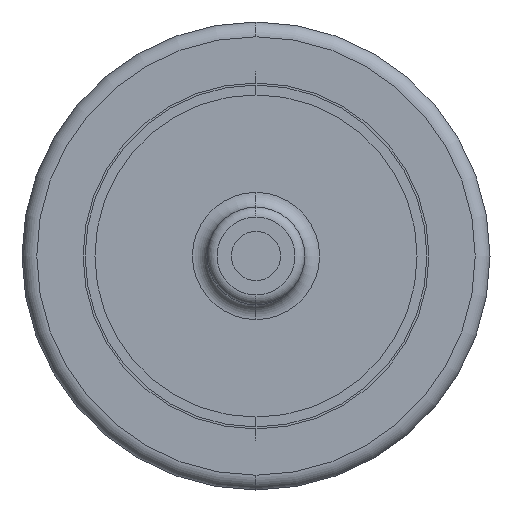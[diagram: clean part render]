
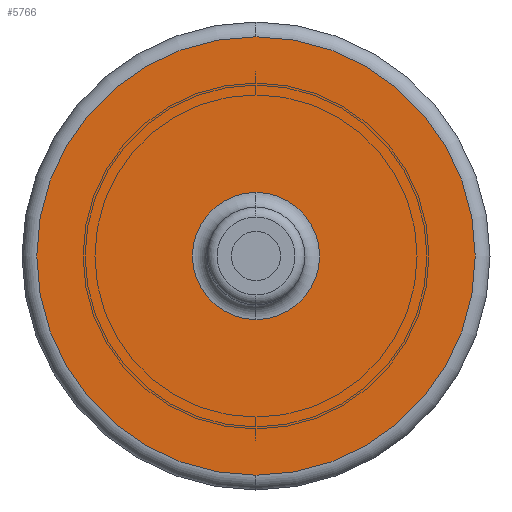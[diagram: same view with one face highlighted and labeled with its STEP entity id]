
A CAD part, left-side view. The second image highlights one B-rep face of the part: STEP entity #5766.
In plain terms, the highlighted planar face has unit normal (-1, 0, 0).
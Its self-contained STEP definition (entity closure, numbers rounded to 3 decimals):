
#226 = ORIENTED_EDGE ( 'NONE', *, *, #22060, .T. ) ;
#823 = FACE_BOUND ( 'NONE', #1788, .T. ) ;
#1200 = DIRECTION ( 'NONE',  ( 1., 0., 0. ) ) ;
#1298 = AXIS2_PLACEMENT_3D ( 'NONE', #8138, #16903, #9701 ) ;
#1788 = EDGE_LOOP ( 'NONE', ( #16781, #16660 ) ) ;
#1960 = EDGE_CURVE ( 'NONE', #2299, #14991, #3265, .T. ) ;
#2299 = VERTEX_POINT ( 'NONE', #7860 ) ;
#3265 = CIRCLE ( 'NONE', #20916, 1.29 ) ;
#4517 = DIRECTION ( 'NONE',  ( 0., 0., -1. ) ) ;
#5550 = EDGE_CURVE ( 'NONE', #14991, #2299, #8625, .T. ) ;
#5766 = ADVANCED_FACE ( 'NONE', ( #823, #13531 ), #14972, .F. ) ;
#5802 = VERTEX_POINT ( 'NONE', #19198 ) ;
#6790 = DIRECTION ( 'NONE',  ( 1., 0., 0. ) ) ;
#6838 = CARTESIAN_POINT ( 'NONE',  ( -19.5, 0., 0. ) ) ;
#6956 = DIRECTION ( 'NONE',  ( 0., 0., -1. ) ) ;
#7362 = AXIS2_PLACEMENT_3D ( 'NONE', #12593, #9226, #16549 ) ;
#7727 = CIRCLE ( 'NONE', #7362, 4.45 ) ;
#7814 = DIRECTION ( 'NONE',  ( 0., 0., -1. ) ) ;
#7860 = CARTESIAN_POINT ( 'NONE',  ( -19.5, 0., -1.29 ) ) ;
#8138 = CARTESIAN_POINT ( 'NONE',  ( -19.5, 4.75, 0. ) ) ;
#8388 = VERTEX_POINT ( 'NONE', #18878 ) ;
#8404 = EDGE_CURVE ( 'NONE', #5802, #8388, #22956, .T. ) ;
#8625 = CIRCLE ( 'NONE', #16628, 1.29 ) ;
#9226 = DIRECTION ( 'NONE',  ( -1., 0., 0. ) ) ;
#9701 = DIRECTION ( 'NONE',  ( 0., 0., -1. ) ) ;
#12593 = CARTESIAN_POINT ( 'NONE',  ( -19.5, 0., 0. ) ) ;
#13531 = FACE_OUTER_BOUND ( 'NONE', #15037, .T. ) ;
#14972 = PLANE ( 'NONE',  #1298 ) ;
#14991 = VERTEX_POINT ( 'NONE', #15497 ) ;
#15037 = EDGE_LOOP ( 'NONE', ( #23679, #226 ) ) ;
#15497 = CARTESIAN_POINT ( 'NONE',  ( -19.5, 0., 1.29 ) ) ;
#16549 = DIRECTION ( 'NONE',  ( 0., 0., -1. ) ) ;
#16628 = AXIS2_PLACEMENT_3D ( 'NONE', #6838, #1200, #6956 ) ;
#16660 = ORIENTED_EDGE ( 'NONE', *, *, #5550, .T. ) ;
#16781 = ORIENTED_EDGE ( 'NONE', *, *, #1960, .T. ) ;
#16903 = DIRECTION ( 'NONE',  ( 1., 0., 0. ) ) ;
#18361 = AXIS2_PLACEMENT_3D ( 'NONE', #20555, #22128, #7814 ) ;
#18878 = CARTESIAN_POINT ( 'NONE',  ( -19.5, 0., 4.45 ) ) ;
#19198 = CARTESIAN_POINT ( 'NONE',  ( -19.5, 0., -4.45 ) ) ;
#19531 = CARTESIAN_POINT ( 'NONE',  ( -19.5, 0., 0. ) ) ;
#20555 = CARTESIAN_POINT ( 'NONE',  ( -19.5, 0., 0. ) ) ;
#20916 = AXIS2_PLACEMENT_3D ( 'NONE', #19531, #6790, #4517 ) ;
#22060 = EDGE_CURVE ( 'NONE', #8388, #5802, #7727, .T. ) ;
#22128 = DIRECTION ( 'NONE',  ( -1., 0., 0. ) ) ;
#22956 = CIRCLE ( 'NONE', #18361, 4.45 ) ;
#23679 = ORIENTED_EDGE ( 'NONE', *, *, #8404, .T. ) ;
